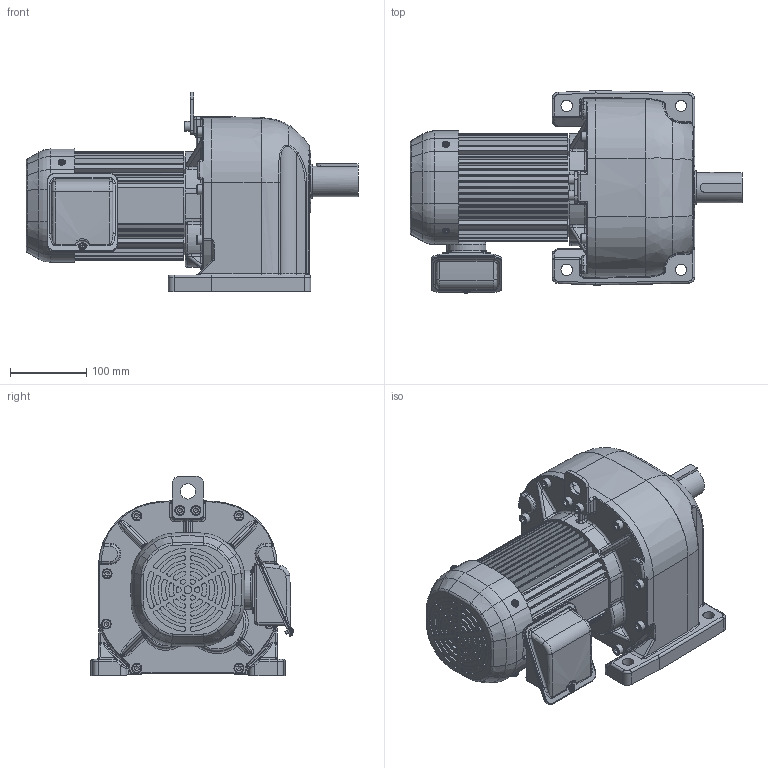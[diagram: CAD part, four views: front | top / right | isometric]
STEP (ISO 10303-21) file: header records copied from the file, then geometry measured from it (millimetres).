
FILE_DESCRIPTION( ( 'Unknown' ), '1' );
FILE_NAME( 'X:/gear/gm/3D-WEB/IE3/DP/ﾊﾟｰﾂ/完成品/dp_075_60-100.stp', 'Unknown', ( 'Unknown' ), ( 'Unknown' ), 'PSStep 14.0', 'Unknown', ' ' );
FILE_SCHEMA( ( 'AUTOMOTIVE_DESIGN { 1 0 10303 214 1 1 1 1 }' ) );
Length unit declared in the file: millimetre
Products named in the file (2): P164415_Gﾌﾞﾗｹｯﾄ(J40-8)
Bounding box: 435.5 x 265.85 x 262 mm (x, y, z)
Volume: 10078551.3 mm3; surface area: 701433.2 mm2
Topology: 2 solids, 41 shells, 1865 faces, 4603 edges, 2897 vertices
Faces by surface type: cylinder 793, plane 684, torus 153, bspline 142, cone 67, sphere 26
Full cylindrical faces by diameter (mm): 3.8 x6, 4.134 x4, 4.2 x8, 4.5 x8, 4.8 x1, 5.5 x4, 5.6 x1, 5.8 x4, 6 x8, 6.8 x13, 7 x5, 8 x10, 8.2 x1, 9 x10, 10 x16, 13 x10, 13.5 x2, 15 x4, 20 x1, 23 x1, 25 x3, 28.6 x1, 40 x1, 45 x1, 45.1 x1, 45.5 x1, 48 x2, 50 x2, 51.2 x1, 58 x1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
Entity records: 85281 total; most frequent: CARTESIAN_POINT 27247, DIRECTION 9492, ORIENTED_EDGE 8466, EDGE_CURVE 4233, AXIS2_PLACEMENT_3D 3787, VERTEX_POINT 2799, EDGE_LOOP 2221, FACE_OUTER_BOUND 2027
